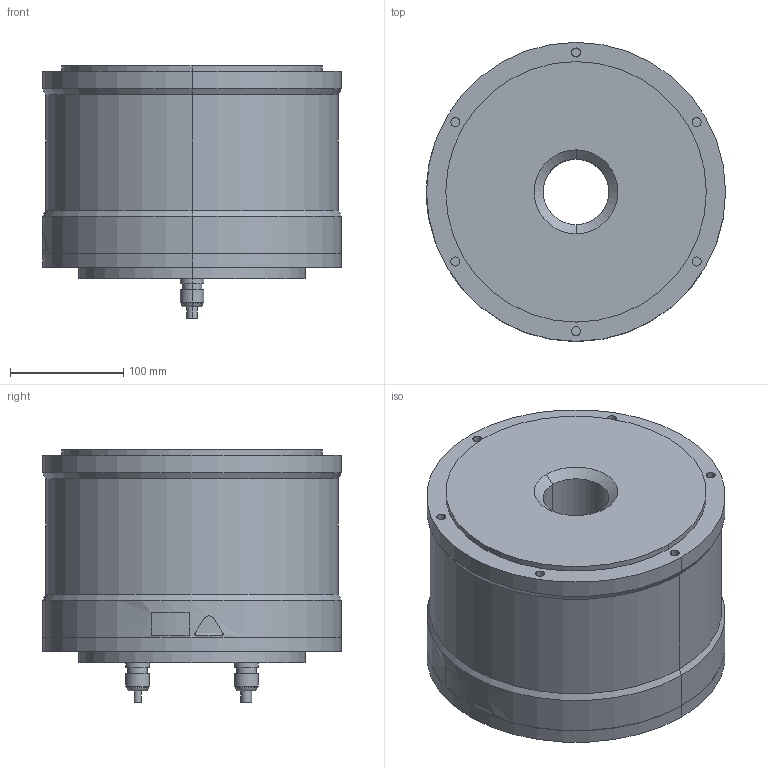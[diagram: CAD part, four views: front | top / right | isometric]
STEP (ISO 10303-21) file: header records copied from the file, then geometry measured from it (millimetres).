
FILE_DESCRIPTION (( 'STEP AP203' ), '1' );
FILE_NAME ('sgm7d_1af_c5_.STEP', '2016-02-22T08:05:16', ( '' ), ( '' ), 'SwSTEP 2.0', 'SolidWorks 2010', '' );
FILE_SCHEMA (( 'CONFIG_CONTROL_DESIGN' ));
Length unit declared in the file: millimetre
Products named in the file (1): sgm7d_1af_c5_
Bounding box: 264.08 x 264 x 222.8 mm (x, y, z)
Volume: 9209449 mm3; surface area: 305191.1 mm2
Topology: 1 solids, 1 shells, 224 faces, 476 edges, 310 vertices
Faces by surface type: cylinder 136, plane 73, cone 6, bspline 5, torus 4
Entity records: 6429 total; most frequent: CARTESIAN_POINT 1250, DIRECTION 1200, ORIENTED_EDGE 952, AXIS2_PLACEMENT_3D 520, EDGE_CURVE 476, VERTEX_POINT 310, CIRCLE 300, EDGE_LOOP 282
